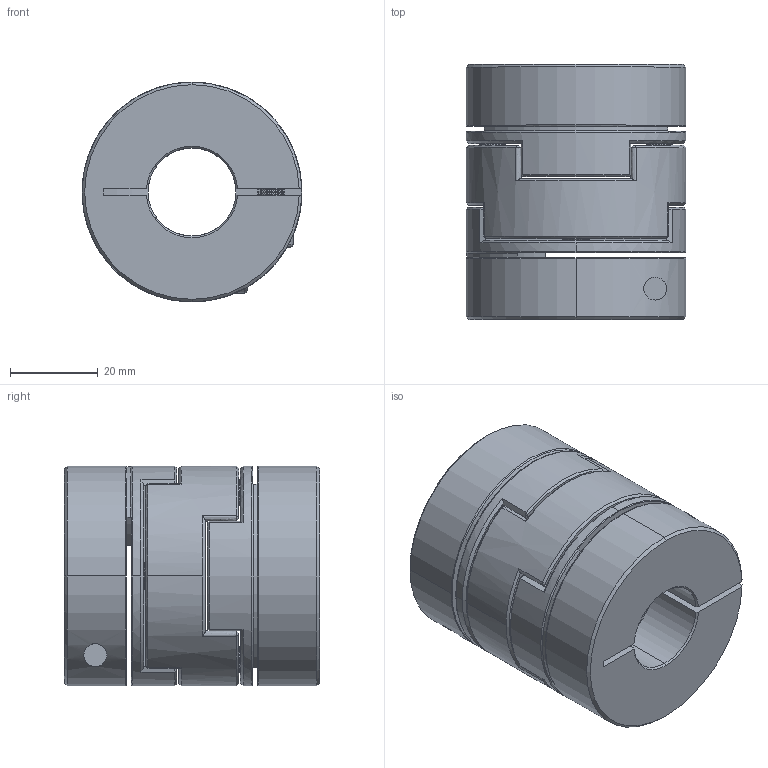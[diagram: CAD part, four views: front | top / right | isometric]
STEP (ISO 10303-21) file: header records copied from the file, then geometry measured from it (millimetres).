
FILE_DESCRIPTION (( 'STEP AP203' ), '1' );
FILE_NAME ('LZ-B-D50L58-20-20.STEP', '2021-10-29T08:16:01', ( '' ), ( '' ), 'SwSTEP 2.0', 'SolidWorks 2018', '' );
FILE_SCHEMA (( 'CONFIG_CONTROL_DESIGN' ));
Length unit declared in the file: millimetre
Products named in the file (1): LZ-B-D50L58-20-20
Bounding box: 50 x 58 x 50 mm (x, y, z)
Volume: 87752.5 mm3; surface area: 29728.7 mm2
Topology: 1 solids, 27 shells, 560 faces, 1364 edges, 810 vertices
Faces by surface type: cone 252, cylinder 160, plane 90, bspline 54, torus 4
Entity records: 17422 total; most frequent: CARTESIAN_POINT 4342, DIRECTION 2782, ORIENTED_EDGE 2720, EDGE_CURVE 1360, AXIS2_PLACEMENT_3D 1123, VERTEX_POINT 810, CIRCLE 616, EDGE_LOOP 594
